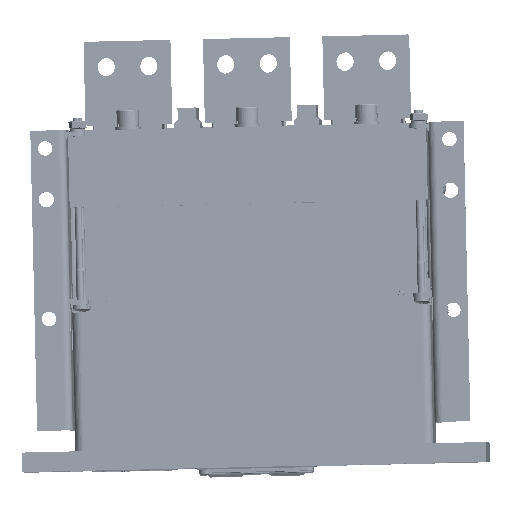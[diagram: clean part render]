
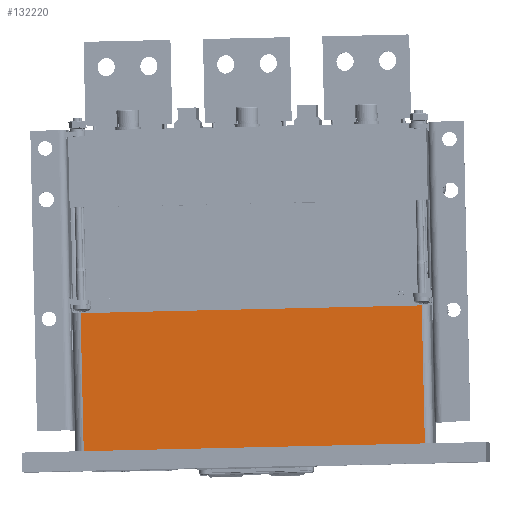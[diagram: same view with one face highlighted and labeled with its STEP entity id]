
A CAD part, front view. The second image highlights one B-rep face of the part: STEP entity #132220.
In plain terms, the highlighted planar face has unit normal (-0.006, -1, 0.001) as drawn and (0, 0, -1) by its records, which use the part's own axes.
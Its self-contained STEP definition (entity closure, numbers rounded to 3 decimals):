
#6116 = ORIENTED_EDGE ( 'NONE', *, *, #329234, .T. ) ;
#24803 = VECTOR ( 'NONE', #341330, 1000. ) ;
#31305 = DIRECTION ( 'NONE',  ( 0., -1., 0. ) ) ;
#33075 = EDGE_LOOP ( 'NONE', ( #66040, #142163, #474582, #6116 ) ) ;
#46950 = FACE_OUTER_BOUND ( 'NONE', #33075, .T. ) ;
#56785 = CARTESIAN_POINT ( 'NONE',  ( -100., -33.15, 37.75 ) ) ;
#66040 = ORIENTED_EDGE ( 'NONE', *, *, #184440, .T. ) ;
#68826 = VERTEX_POINT ( 'NONE', #223531 ) ;
#75110 = LINE ( 'NONE', #503213, #228493 ) ;
#76316 = LINE ( 'NONE', #264701, #140365 ) ;
#79774 = EDGE_CURVE ( 'NONE', #411392, #311886, #75110, .T. ) ;
#96717 = VERTEX_POINT ( 'NONE', #56785 ) ;
#103204 = LINE ( 'NONE', #456460, #437906 ) ;
#107971 = CARTESIAN_POINT ( 'NONE',  ( 100., -33.15, 37.75 ) ) ;
#116283 = EDGE_CURVE ( 'NONE', #68826, #411392, #150362, .T. ) ;
#132220 = ADVANCED_FACE ( 'NONE', ( #46950 ), #317851, .T. ) ;
#140365 = VECTOR ( 'NONE', #151151, 1000. ) ;
#142163 = ORIENTED_EDGE ( 'NONE', *, *, #116283, .T. ) ;
#150362 = LINE ( 'NONE', #452266, #24803 ) ;
#151151 = DIRECTION ( 'NONE',  ( 0., 1., 0. ) ) ;
#184440 = EDGE_CURVE ( 'NONE', #96717, #68826, #76316, .T. ) ;
#201694 = DIRECTION ( 'NONE',  ( 0., -1., 0. ) ) ;
#223531 = CARTESIAN_POINT ( 'NONE',  ( -100., 52., 37.75 ) ) ;
#228493 = VECTOR ( 'NONE', #31305, 1000. ) ;
#245502 = CARTESIAN_POINT ( 'NONE',  ( -105., -31.25, 37.75 ) ) ;
#260494 = DIRECTION ( 'NONE',  ( -1., 0., 0. ) ) ;
#264701 = CARTESIAN_POINT ( 'NONE',  ( -100., -33.15, 37.75 ) ) ;
#298734 = CARTESIAN_POINT ( 'NONE',  ( 100., 52., 37.75 ) ) ;
#311886 = VERTEX_POINT ( 'NONE', #107971 ) ;
#315307 = DIRECTION ( 'NONE',  ( 0., 0., -1. ) ) ;
#317851 = PLANE ( 'NONE',  #393119 ) ;
#329234 = EDGE_CURVE ( 'NONE', #311886, #96717, #103204, .T. ) ;
#341330 = DIRECTION ( 'NONE',  ( 1., 0., 0. ) ) ;
#393119 = AXIS2_PLACEMENT_3D ( 'NONE', #245502, #315307, #201694 ) ;
#411392 = VERTEX_POINT ( 'NONE', #298734 ) ;
#437906 = VECTOR ( 'NONE', #260494, 1000. ) ;
#452266 = CARTESIAN_POINT ( 'NONE',  ( -100., 52., 37.75 ) ) ;
#456460 = CARTESIAN_POINT ( 'NONE',  ( 100., -33.15, 37.75 ) ) ;
#474582 = ORIENTED_EDGE ( 'NONE', *, *, #79774, .T. ) ;
#503213 = CARTESIAN_POINT ( 'NONE',  ( 100., 52., 37.75 ) ) ;
